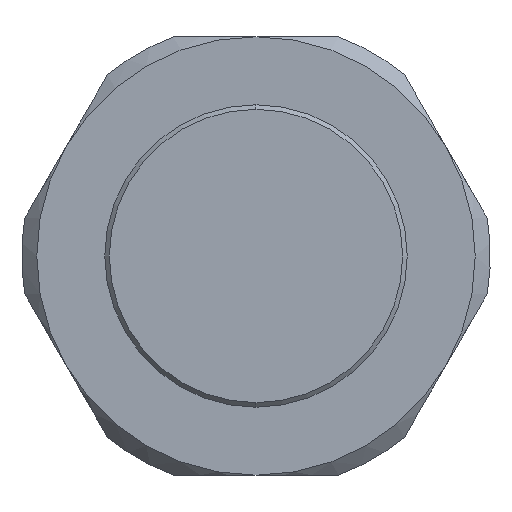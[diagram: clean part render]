
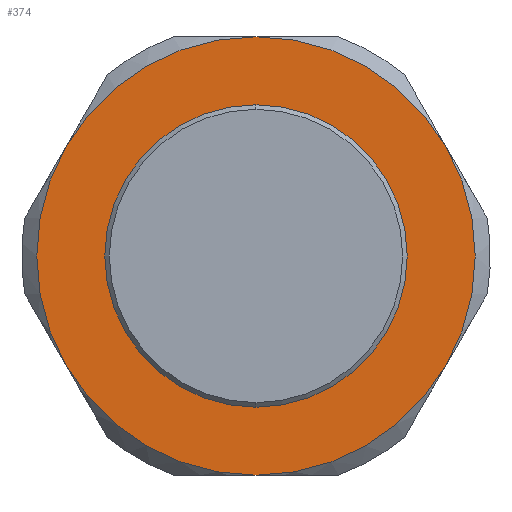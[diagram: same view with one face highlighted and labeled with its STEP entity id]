
A CAD part, left-side view. The second image highlights one B-rep face of the part: STEP entity #374.
In plain terms, the highlighted planar face has unit normal (-1, 0, 0).
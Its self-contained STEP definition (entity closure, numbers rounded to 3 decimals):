
#17 = CARTESIAN_POINT ( 'NONE',  ( -24.025, 12.557, -7.25 ) ) ;
#25 = CIRCLE ( 'NONE', #110, 8. ) ;
#35 = PLANE ( 'NONE',  #429 ) ;
#48 = DIRECTION ( 'NONE',  ( 1., 0., 0. ) ) ;
#62 = CIRCLE ( 'NONE', #349, 14.5 ) ;
#72 = DIRECTION ( 'NONE',  ( 1., 0., 0. ) ) ;
#76 = VERTEX_POINT ( 'NONE', #138 ) ;
#79 = CARTESIAN_POINT ( 'NONE',  ( -24.025, -12.557, -7.25 ) ) ;
#95 = CIRCLE ( 'NONE', #996, 14.5 ) ;
#110 = AXIS2_PLACEMENT_3D ( 'NONE', #1554, #345, #1090 ) ;
#112 = EDGE_CURVE ( 'NONE', #952, #1488, #62, .T. ) ;
#138 = CARTESIAN_POINT ( 'NONE',  ( -24.025, 0., 8. ) ) ;
#178 = VERTEX_POINT ( 'NONE', #17 ) ;
#192 = AXIS2_PLACEMENT_3D ( 'NONE', #1345, #1212, #1085 ) ;
#240 = FACE_OUTER_BOUND ( 'NONE', #718, .T. ) ;
#272 = EDGE_CURVE ( 'NONE', #1512, #76, #1028, .T. ) ;
#320 = DIRECTION ( 'NONE',  ( 0., 0., -1. ) ) ;
#326 = DIRECTION ( 'NONE',  ( 1., 0., 0. ) ) ;
#345 = DIRECTION ( 'NONE',  ( 1., 0., 0. ) ) ;
#349 = AXIS2_PLACEMENT_3D ( 'NONE', #768, #897, #912 ) ;
#374 = ADVANCED_FACE ( 'NONE', ( #375, #240 ), #35, .T. ) ;
#375 = FACE_BOUND ( 'NONE', #563, .T. ) ;
#382 = CIRCLE ( 'NONE', #192, 14.5 ) ;
#429 = AXIS2_PLACEMENT_3D ( 'NONE', #895, #836, #652 ) ;
#447 = CARTESIAN_POINT ( 'NONE',  ( -24.025, 0., 0. ) ) ;
#454 = EDGE_CURVE ( 'NONE', #178, #952, #382, .T. ) ;
#519 = EDGE_CURVE ( 'NONE', #1446, #728, #1302, .T. ) ;
#563 = EDGE_LOOP ( 'NONE', ( #922, #1167 ) ) ;
#584 = CARTESIAN_POINT ( 'NONE',  ( -24.025, 0., 0. ) ) ;
#596 = EDGE_CURVE ( 'NONE', #1488, #1446, #95, .T. ) ;
#616 = AXIS2_PLACEMENT_3D ( 'NONE', #1531, #48, #1026 ) ;
#649 = ORIENTED_EDGE ( 'NONE', *, *, #1132, .F. ) ;
#652 = DIRECTION ( 'NONE',  ( 0., 0., 1. ) ) ;
#680 = CARTESIAN_POINT ( 'NONE',  ( -24.025, -12.557, 7.25 ) ) ;
#718 = EDGE_LOOP ( 'NONE', ( #1285, #649, #1349, #1003, #909, #1571 ) ) ;
#728 = VERTEX_POINT ( 'NONE', #79 ) ;
#765 = DIRECTION ( 'NONE',  ( 0., 0., -1. ) ) ;
#768 = CARTESIAN_POINT ( 'NONE',  ( -24.025, 0., 0. ) ) ;
#804 = CARTESIAN_POINT ( 'NONE',  ( -24.025, 0., 0. ) ) ;
#836 = DIRECTION ( 'NONE',  ( -1., 0., 0. ) ) ;
#895 = CARTESIAN_POINT ( 'NONE',  ( -24.025, 8., 0. ) ) ;
#897 = DIRECTION ( 'NONE',  ( 1., 0., 0. ) ) ;
#908 = CARTESIAN_POINT ( 'NONE',  ( -24.025, 12.557, 7.25 ) ) ;
#909 = ORIENTED_EDGE ( 'NONE', *, *, #112, .F. ) ;
#912 = DIRECTION ( 'NONE',  ( 0., 0., -1. ) ) ;
#922 = ORIENTED_EDGE ( 'NONE', *, *, #272, .T. ) ;
#952 = VERTEX_POINT ( 'NONE', #908 ) ;
#960 = VERTEX_POINT ( 'NONE', #1284 ) ;
#967 = DIRECTION ( 'NONE',  ( 1., 0., 0. ) ) ;
#996 = AXIS2_PLACEMENT_3D ( 'NONE', #804, #72, #1157 ) ;
#1003 = ORIENTED_EDGE ( 'NONE', *, *, #596, .F. ) ;
#1008 = CARTESIAN_POINT ( 'NONE',  ( -24.025, 0., -8. ) ) ;
#1026 = DIRECTION ( 'NONE',  ( 0., 0., -1. ) ) ;
#1028 = CIRCLE ( 'NONE', #1078, 8. ) ;
#1031 = CARTESIAN_POINT ( 'NONE',  ( -24.025, 0., 14.5 ) ) ;
#1078 = AXIS2_PLACEMENT_3D ( 'NONE', #447, #326, #1569 ) ;
#1085 = DIRECTION ( 'NONE',  ( 0., 0., -1. ) ) ;
#1090 = DIRECTION ( 'NONE',  ( 0., 0., -1. ) ) ;
#1091 = EDGE_CURVE ( 'NONE', #76, #1512, #25, .T. ) ;
#1132 = EDGE_CURVE ( 'NONE', #728, #960, #1492, .T. ) ;
#1157 = DIRECTION ( 'NONE',  ( 0., 0., -1. ) ) ;
#1167 = ORIENTED_EDGE ( 'NONE', *, *, #1091, .T. ) ;
#1209 = AXIS2_PLACEMENT_3D ( 'NONE', #1496, #1368, #765 ) ;
#1212 = DIRECTION ( 'NONE',  ( 1., 0., 0. ) ) ;
#1264 = CIRCLE ( 'NONE', #1209, 14.5 ) ;
#1284 = CARTESIAN_POINT ( 'NONE',  ( -24.025, 0., -14.5 ) ) ;
#1285 = ORIENTED_EDGE ( 'NONE', *, *, #1342, .F. ) ;
#1302 = CIRCLE ( 'NONE', #616, 14.5 ) ;
#1342 = EDGE_CURVE ( 'NONE', #960, #178, #1264, .T. ) ;
#1345 = CARTESIAN_POINT ( 'NONE',  ( -24.025, 0., 0. ) ) ;
#1349 = ORIENTED_EDGE ( 'NONE', *, *, #519, .F. ) ;
#1357 = AXIS2_PLACEMENT_3D ( 'NONE', #584, #967, #320 ) ;
#1368 = DIRECTION ( 'NONE',  ( 1., 0., 0. ) ) ;
#1446 = VERTEX_POINT ( 'NONE', #680 ) ;
#1488 = VERTEX_POINT ( 'NONE', #1031 ) ;
#1492 = CIRCLE ( 'NONE', #1357, 14.5 ) ;
#1496 = CARTESIAN_POINT ( 'NONE',  ( -24.025, 0., 0. ) ) ;
#1512 = VERTEX_POINT ( 'NONE', #1008 ) ;
#1531 = CARTESIAN_POINT ( 'NONE',  ( -24.025, 0., 0. ) ) ;
#1554 = CARTESIAN_POINT ( 'NONE',  ( -24.025, 0., 0. ) ) ;
#1569 = DIRECTION ( 'NONE',  ( 0., 0., -1. ) ) ;
#1571 = ORIENTED_EDGE ( 'NONE', *, *, #454, .F. ) ;
